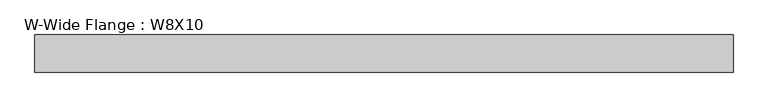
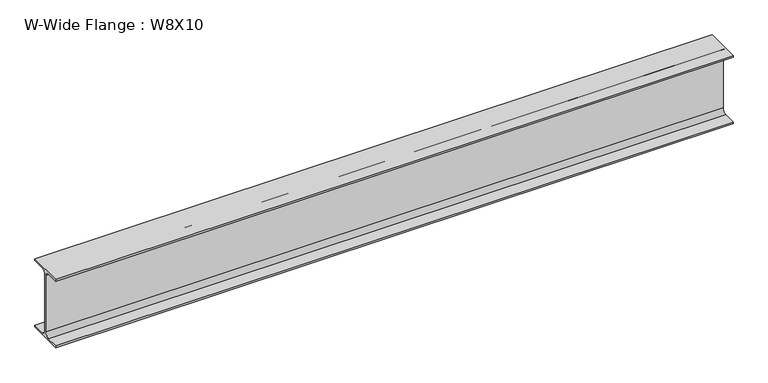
"""IFC4 building model written with IfcOpenShell, lengths in millimetres: beam geometry, W-Wide Flange : W8X10."""

from ifc_helpers import new_model, si_unit, point, frame, frame_2d, origin, place, context, project, spatial, polyline, circle_curve, trimmed, segment, composite_curve, outline, extrude, source, transform, mapped, element, save


def w_wide_flange_w8x10_84773640(model_context):
    return source(origin(), model_context, "Body", "SweptSolid", [
        extrude(outline(composite_curve([segment(polyline([(50.038, -94.996), (50.038, -100.203), (-50.038, -100.203), (-50.038, -94.996), (-14.4145, -94.996)]), True, "CONTINUOUS"), segment(trimmed(circle_curve(frame_2d((-14.4145, -82.7405)), 12.2555), [point((-14.4145, -94.996))], [point((-2.159, -82.7405))], True, "CARTESIAN"), True, "CONTINUOUS"), segment(polyline([(-2.159, -82.7405), (-2.159, 82.7405)]), True, "CONTINUOUS"), segment(trimmed(circle_curve(frame_2d((-14.4145, 82.7405)), 12.2555), [point((-2.159, 82.7405))], [point((-14.4145, 94.996))], True, "CARTESIAN"), True, "CONTINUOUS"), segment(polyline([(-14.4145, 94.996), (-50.038, 94.996), (-50.038, 100.203), (50.038, 100.203), (50.038, 94.996), (14.4145, 94.996)]), True, "CONTINUOUS"), segment(trimmed(circle_curve(frame_2d((14.4145, 82.7405)), 12.2555), [point((14.4145, 94.996))], [point((2.159, 82.7405))], True, "CARTESIAN"), True, "CONTINUOUS"), segment(polyline([(2.159, 82.7405), (2.159, -82.7405)]), True, "CONTINUOUS"), segment(trimmed(circle_curve(frame_2d((14.4145, -82.7405)), 12.2555), [point((2.159, -82.7405))], [point((14.4145, -94.996))], True, "CARTESIAN"), True, "CONTINUOUS"), segment(polyline([(14.4145, -94.996), (50.038, -94.996)]), True, "CONTINUOUS")], self_intersect=False)), frame((-858.567415, 0.0, 0.0), z_axis=(1.0, 0.0, 0.0), x_axis=(0.0, 1.0, 0.0)), (0.0, 0.0, 1.0), 1881.4906893),
    ])


if __name__ == "__main__":
    model = new_model("IFC4")
    model_context = context("Model", 3, world=origin())
    ifc_project = project(units=[si_unit("LENGTHUNIT", "METRE", prefix="MILLI")], contexts=[model_context])
    site = spatial("IfcSite", under=ifc_project)
    building = spatial("IfcBuilding", under=site)
    placement = place(None, origin())
    w_wide_flange_w8x10_shape = w_wide_flange_w8x10_84773640(model_context)
    element("IfcBeam", 1, ObjectType="W-Wide Flange : W8X10", at=placement, inside=building, context=model_context, shape_type="MappedRepresentation", body=[
        mapped(w_wide_flange_w8x10_shape, transform((0.0, 0.0, 0.0), x_axis=(1.0, 0.0, 0.0), y_axis=(0.0, 1.0, 0.0), z_axis=(0.0, 0.0, 1.0))),
    ])
    save(model, "model.ifc")
